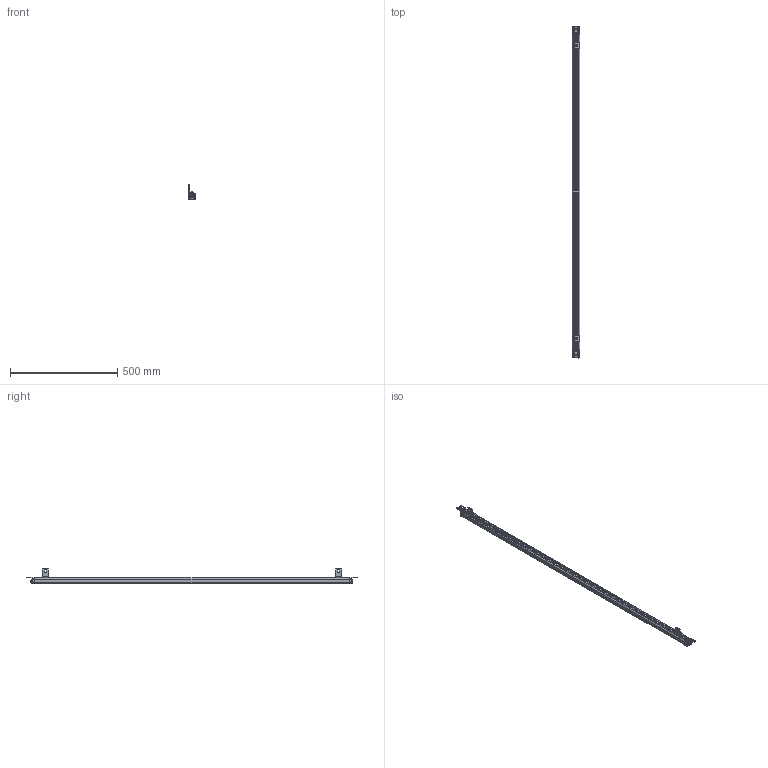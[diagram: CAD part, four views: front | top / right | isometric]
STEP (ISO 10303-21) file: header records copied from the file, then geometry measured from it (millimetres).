
FILE_DESCRIPTION((''),'2;1');
FILE_NAME('ELG-0440_ASM','2021-08-07T10:05:16',('18720616900'),(''),'CREO PARAMETRIC BY PTC INC, 2019010','CREO PARAMETRIC BY PTC INC, 2019010','');
FILE_SCHEMA(('CONFIG_CONTROL_DESIGN'));
Products named in the file (18): ELG--00; ELG--000; ELG000; M3--0001; 3000; 3--0001; ELG_30001_ASM; ST-3-12; L20001; M3-6; L10001; M6-1--00; M6-1-00; M6-8--0001; 00; L1--0001_ASM; ELG-0440_ASM
Assembly tree (34 placements, depth 3):
  ELG-0440_ASM
    ELG--00
    ELG--000
    ELG000
    ELG000
    M3--0001  x4
    ELG_30001_ASM
      3000
      3--0001  x3
    ST-3-12  x8
    L20001  x2
    M3-6  x4
    L1--0001_ASM  x2
      L10001
      M6-1--00
      M6-1-00
      M6-8--0001
      00
Bounding box: 35 x 1545 x 73.4 mm (x, y, z)
Volume: 1268798.2 mm3; surface area: 314375.1 mm2
Topology: 36 solids, 36 shells, 3404 faces, 9468 edges, 6167 vertices
Faces by surface type: cylinder 1928, plane 616, bspline 398, cone 353, torus 99, sphere 10
Entity records: 68753 total; most frequent: CARTESIAN_POINT 35026, ORIENTED_EDGE 7326, DIRECTION 6679, EDGE_CURVE 3663, AXIS2_PLACEMENT_3D 2530, VERTEX_POINT 2387, VECTOR 1619, LINE 1619
